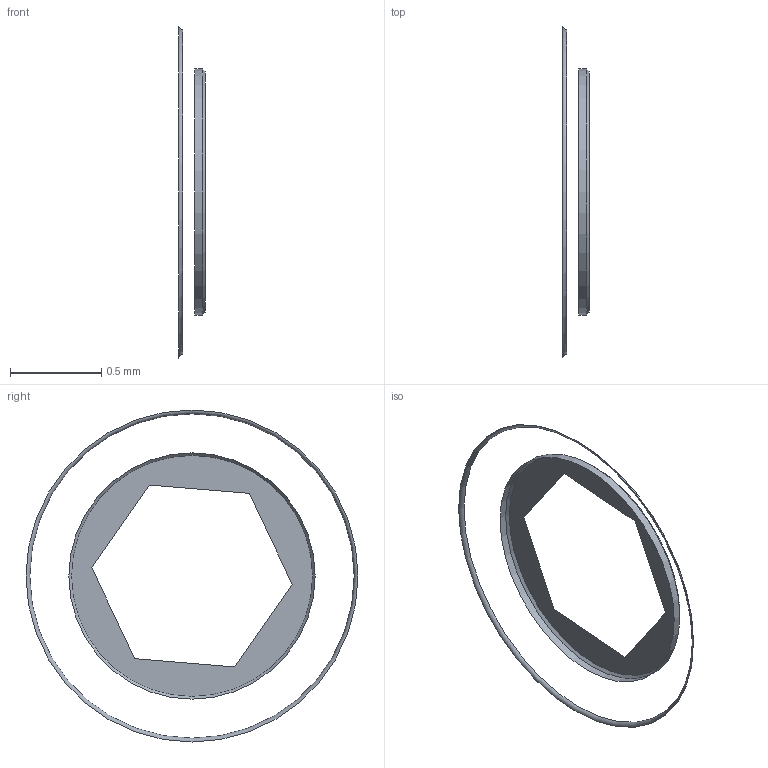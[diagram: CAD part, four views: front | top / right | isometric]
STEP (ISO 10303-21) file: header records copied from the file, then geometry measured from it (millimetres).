
FILE_DESCRIPTION(('BRL-CAD focused geometric regression fixture'),'2;1');
FILE_NAME('AP214_four_face_keyhole','2026-07-24T00:00:00',('BRL-CAD'),('BRL-CAD'),'','','');
FILE_SCHEMA(('AUTOMOTIVE_DESIGN { 1 0 10303 214 3 1 1 1 }'));
Length unit declared in the file: millimetre
Products named in the file (1): AP214_four_face_keyhole
Bounding box: 0.14 x 1.82 x 1.82 mm (x, y, z)
Surface area: 1 mm2 (no closed solid volume)
Topology: 0 solids, 2 shells, 4 faces, 17 edges, 14 vertices
Faces by surface type: cylinder 1, cone 1, plane 1, torus 1
Full cylindrical faces by diameter (mm): 1.352 x1
Entity records: 191 total; most frequent: CARTESIAN_POINT 35, DIRECTION 34, ORIENTED_EDGE 22, EDGE_CURVE 17, VERTEX_POINT 14, AXIS2_PLACEMENT_3D 13, CIRCLE 9, LINE 8
